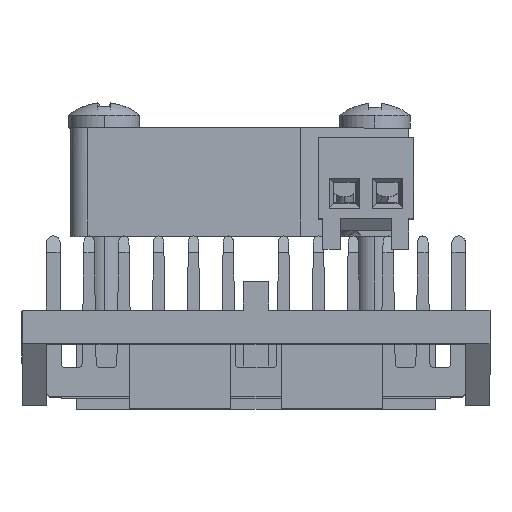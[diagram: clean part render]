
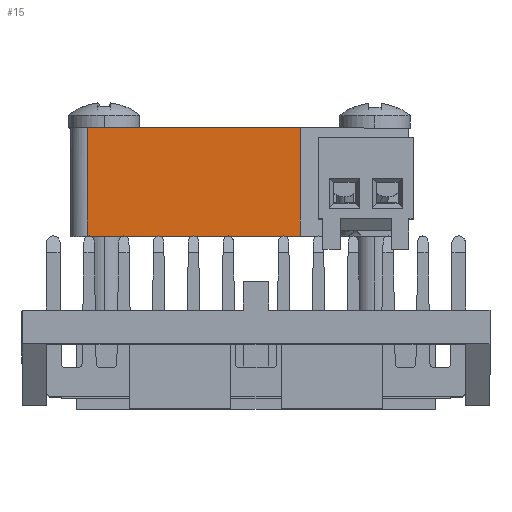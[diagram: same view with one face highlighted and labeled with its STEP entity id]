
A CAD part, top view. The second image highlights one B-rep face of the part: STEP entity #15.
In plain terms, the highlighted planar face has unit normal (0, 0, 1).
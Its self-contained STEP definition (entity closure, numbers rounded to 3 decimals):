
#15 = ADVANCED_FACE ( 'NONE', ( #14124 ), #9515, .F. ) ;
#448 = AXIS2_PLACEMENT_3D ( 'NONE', #6159, #12504, #7866 ) ;
#532 = VERTEX_POINT ( 'NONE', #16973 ) ;
#1668 = DIRECTION ( 'NONE',  ( 1., 0., 0. ) ) ;
#2359 = DIRECTION ( 'NONE',  ( -1., 0., 0. ) ) ;
#2899 = VERTEX_POINT ( 'NONE', #9994 ) ;
#3443 = LINE ( 'NONE', #15944, #3991 ) ;
#3991 = VECTOR ( 'NONE', #4617, 1000. ) ;
#4397 = EDGE_CURVE ( 'NONE', #2899, #7883, #17182, .T. ) ;
#4617 = DIRECTION ( 'NONE',  ( 0., -1., 0. ) ) ;
#4736 = ORIENTED_EDGE ( 'NONE', *, *, #13677, .F. ) ;
#4940 = VECTOR ( 'NONE', #1668, 1000. ) ;
#5042 = DIRECTION ( 'NONE',  ( 0., 1., 0. ) ) ;
#6159 = CARTESIAN_POINT ( 'NONE',  ( 12.752, 12.356, 10.509 ) ) ;
#6538 = CARTESIAN_POINT ( 'NONE',  ( -6.248, 12.356, 10.509 ) ) ;
#6727 = CARTESIAN_POINT ( 'NONE',  ( 6.352, 12.256, 10.509 ) ) ;
#7663 = EDGE_LOOP ( 'NONE', ( #17863, #4736, #14517, #14114 ) ) ;
#7866 = DIRECTION ( 'NONE',  ( 0., -1., 0. ) ) ;
#7883 = VERTEX_POINT ( 'NONE', #9287 ) ;
#8426 = VECTOR ( 'NONE', #5042, 1000. ) ;
#9053 = CARTESIAN_POINT ( 'NONE',  ( 2.752, 5.856, 10.509 ) ) ;
#9287 = CARTESIAN_POINT ( 'NONE',  ( -6.248, 5.856, 10.509 ) ) ;
#9515 = PLANE ( 'NONE',  #448 ) ;
#9994 = CARTESIAN_POINT ( 'NONE',  ( 6.352, 5.856, 10.509 ) ) ;
#10645 = EDGE_CURVE ( 'NONE', #532, #16796, #17977, .T. ) ;
#11106 = LINE ( 'NONE', #6538, #8426 ) ;
#11699 = VECTOR ( 'NONE', #2359, 1000. ) ;
#12504 = DIRECTION ( 'NONE',  ( 0., 0., -1. ) ) ;
#13666 = EDGE_CURVE ( 'NONE', #16796, #2899, #3443, .T. ) ;
#13677 = EDGE_CURVE ( 'NONE', #7883, #532, #11106, .T. ) ;
#14114 = ORIENTED_EDGE ( 'NONE', *, *, #13666, .F. ) ;
#14124 = FACE_OUTER_BOUND ( 'NONE', #7663, .T. ) ;
#14517 = ORIENTED_EDGE ( 'NONE', *, *, #4397, .F. ) ;
#15944 = CARTESIAN_POINT ( 'NONE',  ( 6.352, 12.356, 10.509 ) ) ;
#16796 = VERTEX_POINT ( 'NONE', #6727 ) ;
#16973 = CARTESIAN_POINT ( 'NONE',  ( -6.248, 12.256, 10.509 ) ) ;
#17182 = LINE ( 'NONE', #9053, #11699 ) ;
#17863 = ORIENTED_EDGE ( 'NONE', *, *, #10645, .F. ) ;
#17977 = LINE ( 'NONE', #18081, #4940 ) ;
#18081 = CARTESIAN_POINT ( 'NONE',  ( 12.752, 12.256, 10.509 ) ) ;
